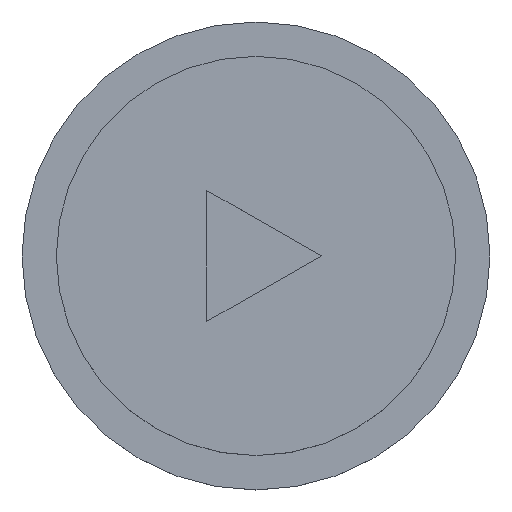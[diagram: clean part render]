
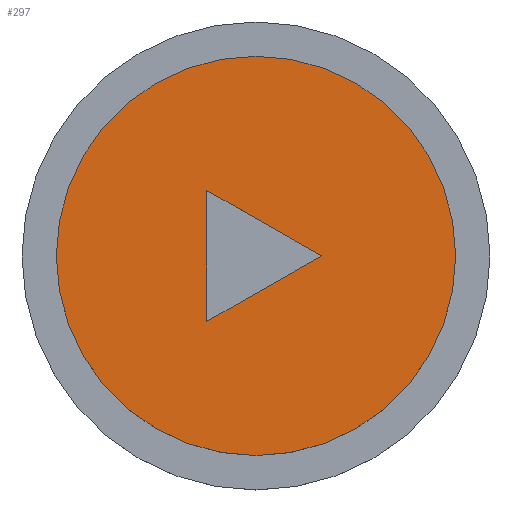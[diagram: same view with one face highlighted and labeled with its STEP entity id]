
A CAD part, top view. The second image highlights one B-rep face of the part: STEP entity #297.
In plain terms, the highlighted planar face has unit normal (0, 0, 1).
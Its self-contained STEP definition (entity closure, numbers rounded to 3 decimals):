
#231 = CYLINDRICAL_SURFACE('',#232,12.2);
#232 = AXIS2_PLACEMENT_3D('',#233,#234,#235);
#233 = CARTESIAN_POINT('',(0.,-20.,12.25));
#234 = DIRECTION('',(-0.,-0.,-1.));
#235 = DIRECTION('',(1.,0.,0.));
#248 = VERTEX_POINT('',#249);
#249 = CARTESIAN_POINT('',(12.2,-20.,14.45));
#270 = EDGE_CURVE('',#248,#248,#271,.T.);
#271 = SURFACE_CURVE('',#272,(#277,#284),.PCURVE_S1.);
#272 = CIRCLE('',#273,12.2);
#273 = AXIS2_PLACEMENT_3D('',#274,#275,#276);
#274 = CARTESIAN_POINT('',(0.,-20.,14.45));
#275 = DIRECTION('',(0.,0.,1.));
#276 = DIRECTION('',(1.,0.,0.));
#277 = PCURVE('',#231,#278);
#278 = DEFINITIONAL_REPRESENTATION('',(#279),#283);
#279 = LINE('',#280,#281);
#280 = CARTESIAN_POINT('',(-0.,-2.2));
#281 = VECTOR('',#282,1.);
#282 = DIRECTION('',(-1.,0.));
#283 = ( GEOMETRIC_REPRESENTATION_CONTEXT(2) 
PARAMETRIC_REPRESENTATION_CONTEXT() REPRESENTATION_CONTEXT('2D SPACE',''
  ) );
#284 = PCURVE('',#285,#290);
#285 = PLANE('',#286);
#286 = AXIS2_PLACEMENT_3D('',#287,#288,#289);
#287 = CARTESIAN_POINT('',(0.,-20.,14.45));
#288 = DIRECTION('',(0.,0.,1.));
#289 = DIRECTION('',(1.,0.,-0.));
#290 = DEFINITIONAL_REPRESENTATION('',(#291),#295);
#291 = CIRCLE('',#292,12.2);
#292 = AXIS2_PLACEMENT_2D('',#293,#294);
#293 = CARTESIAN_POINT('',(0.,0.));
#294 = DIRECTION('',(1.,0.));
#295 = ( GEOMETRIC_REPRESENTATION_CONTEXT(2) 
PARAMETRIC_REPRESENTATION_CONTEXT() REPRESENTATION_CONTEXT('2D SPACE',''
  ) );
#297 = ADVANCED_FACE('',(#298,#301),#285,.T.);
#298 = FACE_BOUND('',#299,.T.);
#299 = EDGE_LOOP('',(#300));
#300 = ORIENTED_EDGE('',*,*,#270,.T.);
#301 = FACE_BOUND('',#302,.T.);
#302 = EDGE_LOOP('',(#303,#331,#357));
#303 = ORIENTED_EDGE('',*,*,#304,.T.);
#304 = EDGE_CURVE('',#305,#307,#309,.T.);
#305 = VERTEX_POINT('',#306);
#306 = CARTESIAN_POINT('',(-3.,-16.,14.45));
#307 = VERTEX_POINT('',#308);
#308 = CARTESIAN_POINT('',(4.,-20.,14.45));
#309 = SURFACE_CURVE('',#310,(#314,#320),.PCURVE_S1.);
#310 = LINE('',#311,#312);
#311 = CARTESIAN_POINT('',(2.492,-19.138,14.45));
#312 = VECTOR('',#313,1.);
#313 = DIRECTION('',(0.868,-0.496,0.));
#314 = PCURVE('',#285,#315);
#315 = DEFINITIONAL_REPRESENTATION('',(#316),#319);
#316 = B_SPLINE_CURVE_WITH_KNOTS('',1,(#317,#318),.UNSPECIFIED.,.F.,.F.,
  (2,2),(-6.326,1.736),.PIECEWISE_BEZIER_KNOTS.);
#317 = CARTESIAN_POINT('',(-3.,4.));
#318 = CARTESIAN_POINT('',(4.,0.));
#319 = ( GEOMETRIC_REPRESENTATION_CONTEXT(2) 
PARAMETRIC_REPRESENTATION_CONTEXT() REPRESENTATION_CONTEXT('2D SPACE',''
  ) );
#320 = PCURVE('',#321,#326);
#321 = PLANE('',#322);
#322 = AXIS2_PLACEMENT_3D('',#323,#324,#325);
#323 = CARTESIAN_POINT('',(4.,-20.,14.05));
#324 = DIRECTION('',(-0.496,-0.868,0.));
#325 = DIRECTION('',(-0.868,0.496,0.));
#326 = DEFINITIONAL_REPRESENTATION('',(#327),#330);
#327 = B_SPLINE_CURVE_WITH_KNOTS('',1,(#328,#329),.UNSPECIFIED.,.F.,.F.,
  (2,2),(-6.326,1.736),.PIECEWISE_BEZIER_KNOTS.);
#328 = CARTESIAN_POINT('',(8.062,-0.4));
#329 = CARTESIAN_POINT('',(0.,-0.4));
#330 = ( GEOMETRIC_REPRESENTATION_CONTEXT(2) 
PARAMETRIC_REPRESENTATION_CONTEXT() REPRESENTATION_CONTEXT('2D SPACE',''
  ) );
#331 = ORIENTED_EDGE('',*,*,#332,.T.);
#332 = EDGE_CURVE('',#307,#333,#335,.T.);
#333 = VERTEX_POINT('',#334);
#334 = CARTESIAN_POINT('',(-3.,-24.,14.45));
#335 = SURFACE_CURVE('',#336,(#340,#346),.PCURVE_S1.);
#336 = LINE('',#337,#338);
#337 = CARTESIAN_POINT('',(-1.008,-22.862,14.45));
#338 = VECTOR('',#339,1.);
#339 = DIRECTION('',(-0.868,-0.496,0.));
#340 = PCURVE('',#285,#341);
#341 = DEFINITIONAL_REPRESENTATION('',(#342),#345);
#342 = B_SPLINE_CURVE_WITH_KNOTS('',1,(#343,#344),.UNSPECIFIED.,.F.,.F.,
  (2,2),(-5.768,2.295),.PIECEWISE_BEZIER_KNOTS.);
#343 = CARTESIAN_POINT('',(4.,0.));
#344 = CARTESIAN_POINT('',(-3.,-4.));
#345 = ( GEOMETRIC_REPRESENTATION_CONTEXT(2) 
PARAMETRIC_REPRESENTATION_CONTEXT() REPRESENTATION_CONTEXT('2D SPACE',''
  ) );
#346 = PCURVE('',#347,#352);
#347 = PLANE('',#348);
#348 = AXIS2_PLACEMENT_3D('',#349,#350,#351);
#349 = CARTESIAN_POINT('',(-3.,-24.,14.05));
#350 = DIRECTION('',(-0.496,0.868,0.));
#351 = DIRECTION('',(0.868,0.496,0.));
#352 = DEFINITIONAL_REPRESENTATION('',(#353),#356);
#353 = B_SPLINE_CURVE_WITH_KNOTS('',1,(#354,#355),.UNSPECIFIED.,.F.,.F.,
  (2,2),(-5.768,2.295),.PIECEWISE_BEZIER_KNOTS.);
#354 = CARTESIAN_POINT('',(8.062,-0.4));
#355 = CARTESIAN_POINT('',(0.,-0.4));
#356 = ( GEOMETRIC_REPRESENTATION_CONTEXT(2) 
PARAMETRIC_REPRESENTATION_CONTEXT() REPRESENTATION_CONTEXT('2D SPACE',''
  ) );
#357 = ORIENTED_EDGE('',*,*,#358,.T.);
#358 = EDGE_CURVE('',#333,#305,#359,.T.);
#359 = SURFACE_CURVE('',#360,(#364,#370),.PCURVE_S1.);
#360 = LINE('',#361,#362);
#361 = CARTESIAN_POINT('',(-3.,-18.,14.45));
#362 = VECTOR('',#363,1.);
#363 = DIRECTION('',(0.,1.,0.));
#364 = PCURVE('',#285,#365);
#365 = DEFINITIONAL_REPRESENTATION('',(#366),#369);
#366 = B_SPLINE_CURVE_WITH_KNOTS('',1,(#367,#368),.UNSPECIFIED.,.F.,.F.,
  (2,2),(-6.,2.),.PIECEWISE_BEZIER_KNOTS.);
#367 = CARTESIAN_POINT('',(-3.,-4.));
#368 = CARTESIAN_POINT('',(-3.,4.));
#369 = ( GEOMETRIC_REPRESENTATION_CONTEXT(2) 
PARAMETRIC_REPRESENTATION_CONTEXT() REPRESENTATION_CONTEXT('2D SPACE',''
  ) );
#370 = PCURVE('',#371,#376);
#371 = PLANE('',#372);
#372 = AXIS2_PLACEMENT_3D('',#373,#374,#375);
#373 = CARTESIAN_POINT('',(-3.,-16.,14.05));
#374 = DIRECTION('',(1.,0.,-0.));
#375 = DIRECTION('',(0.,-1.,0.));
#376 = DEFINITIONAL_REPRESENTATION('',(#377),#380);
#377 = B_SPLINE_CURVE_WITH_KNOTS('',1,(#378,#379),.UNSPECIFIED.,.F.,.F.,
  (2,2),(-6.,2.),.PIECEWISE_BEZIER_KNOTS.);
#378 = CARTESIAN_POINT('',(8.,-0.4));
#379 = CARTESIAN_POINT('',(0.,-0.4));
#380 = ( GEOMETRIC_REPRESENTATION_CONTEXT(2) 
PARAMETRIC_REPRESENTATION_CONTEXT() REPRESENTATION_CONTEXT('2D SPACE',''
  ) );
